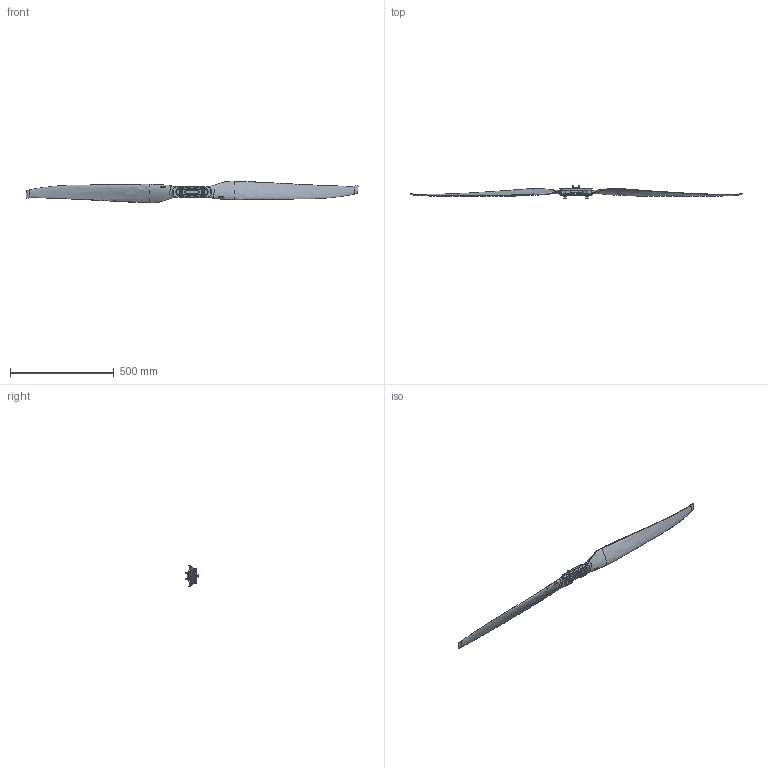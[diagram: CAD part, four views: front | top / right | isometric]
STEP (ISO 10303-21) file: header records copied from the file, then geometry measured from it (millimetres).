
FILE_DESCRIPTION (( 'STEP AP203' ), '1' );
FILE_NAME ('6324蔑珔蔑標.STEP', '2024-12-31T04:02:20', ( '' ), ( '' ), 'SwSTEP 2.0', 'SolidWorks 2021', '' );
FILE_SCHEMA (( 'CONFIG_CONTROL_DESIGN' ));
Length unit declared in the file: millimetre
Products named in the file (8): 对外图档-6324注塑折叠桨-CW; 111350179A0-蔑標釱-D19x105; 6324蔑珔蔑標; 111350178A0-蔑標裔-D19x105; 124400065A0-垫圈-D44.8xD19.2xt1.5; 104150050A0-销钉-D23×D19×32.5; 104110640A0-螺钉-M6x16-内六角圆柱头-本色; 螺钉-HM8x20-本色三组合
Assembly tree (16 placements, depth 2):
  6324蔑珔蔑標
    111350179A0-蔑標釱-D19x105
    104150050A0-销钉-D23×D19×32.5  x2
    124400065A0-垫圈-D44.8xD19.2xt1.5  x4
    111350178A0-蔑標裔-D19x105
    螺钉-HM8x20-本色三组合  x2
    104110640A0-螺钉-M6x16-内六角圆柱头-本色  x4
    对外图档-6324注塑折叠桨-CW  x2
Bounding box: 1600.2 x 58.9 x 102.87 mm (x, y, z)
Volume: 658561.2 mm3; surface area: 296955.5 mm2
Topology: 20 solids, 20 shells, 1190 faces, 3017 edges, 1920 vertices
Faces by surface type: cylinder 477, plane 385, bspline 162, cone 122, torus 44
Entity records: 292162 total; most frequent: CARTESIAN_POINT 273772, ORIENTED_EDGE 3740, DIRECTION 3499, EDGE_CURVE 1870, AXIS2_PLACEMENT_3D 1317, VERTEX_POINT 1188, VECTOR 865, LINE 865
